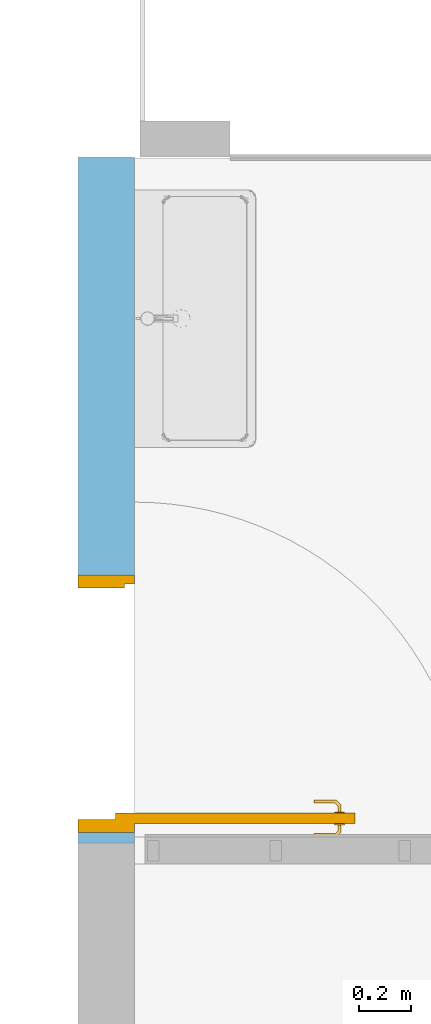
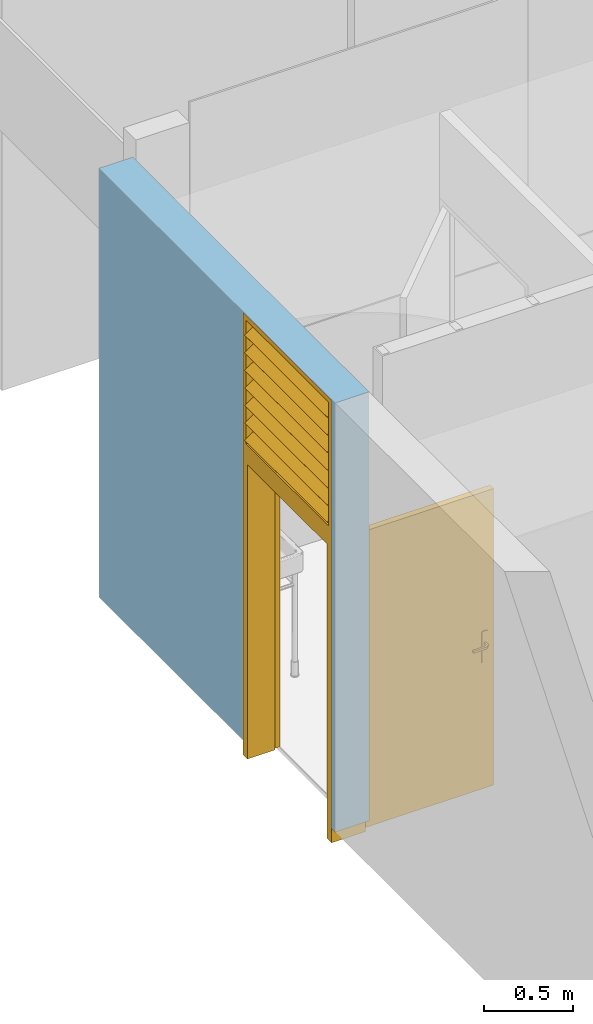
# One storey, part 14 of 20: 1 door, 1 opening, plus 1 element that does not belong to this part.
"""IFC2X3 building model written with IfcOpenShell, lengths in metres."""

from ifc_helpers import new_model, entity, si_unit, converted_unit, derived_unit, direction, frame, frame_2d, origin, place, context, subcontext, project, spatial, rectangle, extrude, faceted_brep, source, transform, mapped, material, material_list, layer, layer_set, layer_usage, type_object, type_shapes, element, fill, save


model = new_model("IFC2X3")

# Units and contexts
model_context = context("Model", 3, precision=1e-05, world=origin(), true_north=direction((6.12303176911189e-17, 1.0)))
body_context = subcontext(model_context, "Body", "Model", "MODEL_VIEW")
ifc_project = project(units=[si_unit("LENGTHUNIT", "METRE"), si_unit("AREAUNIT", "SQUARE_METRE"), si_unit("VOLUMEUNIT", "CUBIC_METRE"), converted_unit("PLANEANGLEUNIT", "DEGREE", entity("IfcRatioMeasure", 0.0174532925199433), si_unit("PLANEANGLEUNIT", "RADIAN"), dimensions=[0, 0, 0, 0, 0, 0, 0]), si_unit("MASSUNIT", "GRAM", prefix="KILO"), derived_unit("MASSDENSITYUNIT", [(si_unit("MASSUNIT", "GRAM", prefix="KILO"), 1), (si_unit("LENGTHUNIT", "METRE"), -3)]), si_unit("TIMEUNIT", "SECOND"), si_unit("FREQUENCYUNIT", "HERTZ"), si_unit("THERMODYNAMICTEMPERATUREUNIT", "DEGREE_CELSIUS"), derived_unit("THERMALTRANSMITTANCEUNIT", [(si_unit("MASSUNIT", "GRAM", prefix="KILO"), 1), (si_unit("THERMODYNAMICTEMPERATUREUNIT", "KELVIN"), -1), (si_unit("TIMEUNIT", "SECOND"), -3)]), derived_unit("VOLUMETRICFLOWRATEUNIT", [(si_unit("LENGTHUNIT", "METRE"), 3), (si_unit("TIMEUNIT", "SECOND"), -1)]), si_unit("ELECTRICCURRENTUNIT", "AMPERE"), si_unit("ELECTRICVOLTAGEUNIT", "VOLT"), si_unit("POWERUNIT", "WATT"), si_unit("FORCEUNIT", "NEWTON", prefix="KILO"), si_unit("ILLUMINANCEUNIT", "LUX"), si_unit("LUMINOUSFLUXUNIT", "LUMEN"), si_unit("LUMINOUSINTENSITYUNIT", "CANDELA"), derived_unit("USERDEFINED", [(si_unit("MASSUNIT", "GRAM", prefix="KILO"), -1), (si_unit("LENGTHUNIT", "METRE"), -2), (si_unit("TIMEUNIT", "SECOND"), 3), (si_unit("LUMINOUSFLUXUNIT", "LUMEN"), 1)]), derived_unit("LINEARVELOCITYUNIT", [(si_unit("LENGTHUNIT", "METRE"), 1), (si_unit("TIMEUNIT", "SECOND"), -1)]), si_unit("PRESSUREUNIT", "PASCAL"), derived_unit("USERDEFINED", [(si_unit("LENGTHUNIT", "METRE"), -2), (si_unit("MASSUNIT", "GRAM", prefix="KILO"), 1), (si_unit("TIMEUNIT", "SECOND"), -2)])], contexts=[model_context])

# Site, building, storey
site_placement = place(None, origin())
site = spatial("IfcSite", under=ifc_project, at=site_placement, Name="Surface", CompositionType="ELEMENT")
building_placement = place(site_placement, origin())
building = spatial("IfcBuilding", under=site, at=building_placement, Name="ExPREF", CompositionType="ELEMENT")
storey_placement = place(building_placement, frame((0.0, 0.0, 4.27)))
storey = spatial("IfcBuildingStorey", under=building, at=storey_placement, Name="R+1", CompositionType="ELEMENT", Elevation=4.27)

# Wall, opening, door
ifc_material_1 = material(Name="AA-BTC")
ifc_layer = layer(ifc_material_1, 0.22)
ifc_layer_set = layer_set([ifc_layer], Name="Mur de base:A-prémur BTC")
ifc_layer_usage = layer_usage(ifc_layer_set, "AXIS2", "NEGATIVE", 0.11)
wall_type = type_object("IfcWallType", Name="Mur de base:A-prémur BTC", PredefinedType="STANDARD", material=ifc_layer_set)
wall_placement = place(storey_placement, frame((45.269743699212, -189.77806962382, 0.0999999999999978), z_axis=(0.0, 0.0, 1.0), x_axis=(0.0, 1.0, 0.0)))
wall = element("IfcWallStandardCase", 1, at=wall_placement, inside=storey, type_object=wall_type, material=ifc_layer_usage, Name="Mur de base:A-prémur BTC", ObjectType="Mur de base:A-prémur BTC", context=body_context, shape_type="SweptSolid", body=[
    extrude(rectangle(XDim=2.66158136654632, YDim=0.220000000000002, at=frame_2d((1.33079068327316, 4.78783679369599e-16), x_axis=(-1.0, 0.0))), origin(), (0.0, 0.0, 1.0), 2.94999999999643),
])
opening_placement = place(wall_placement, frame((1.04000000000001, 0.109999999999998, -0.0999999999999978)))
opening = element("IfcOpeningElement", 2, at=opening_placement, cuts=wall, Name="Porte extérieur + naco R+1:PP (0.93m x 2.04m):1", ObjectType="Opening", context=body_context, shape_type="SweptSolid", body=[
    extrude(rectangle(XDim=3.04571000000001, YDim=0.999999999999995, at=frame_2d((1.52285500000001, 0.499999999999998), x_axis=(1.0, 0.0))), frame((0.0, 0.0, 0.0), z_axis=(0.0, -1.0, 0.0), x_axis=(0.0, 0.0, 1.0)), (0.0, 0.0, 1.0), 0.22),
])
ifc_material_2 = material(Name="AA-Aluminium")
ifc_material_3 = material(Name="AA-vitrage")
ifc_material_4 = material(Name="AA-Blanc satiné")
ifc_material_5 = material(Name="AA-bois menuiseries")
ifc_material_list_1 = material_list([ifc_material_2, ifc_material_3, ifc_material_4, ifc_material_5])
ifc_material_list_2 = material_list([ifc_material_2, ifc_material_3, ifc_material_4, ifc_material_5])
door_style = type_object("IfcDoorStyle", Name="PP (0.93m x 2.04m)", ConstructionType="NOTDEFINED", OperationType="SINGLE_SWING_RIGHT", ParameterTakesPrecedence=False, Sizeable=False, material=ifc_material_list_2)
shared_shape = source(origin(), body_context, "Body", "Brep", [
    faceted_brep([(0.105000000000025, 0.118950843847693, 2.97916600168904), (0.105000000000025, 0.102098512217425, 2.99096613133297), (0.105000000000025, 0.106516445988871, 2.99727559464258), (0.105000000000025, 0.123368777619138, 2.98547546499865), (1.03500000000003, 0.118950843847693, 2.97916600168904), (1.03500000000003, 0.123368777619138, 2.98547546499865), (1.03500000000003, 0.106516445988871, 2.99727559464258), (1.03500000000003, 0.102098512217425, 2.99096613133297)], [[[0, 1, 2, 3]], [[4, 5, 6, 7]], [[1, 0, 4, 7]], [[2, 1, 7, 6]], [[3, 2, 6, 5]], [[0, 3, 5, 4]]]),
    faceted_brep([(0.105000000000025, 0.119753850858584, 2.98031281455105), (0.105000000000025, 0.122621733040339, 2.98440857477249), (0.105000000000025, 0.228642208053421, 2.91017223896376), (0.105000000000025, 0.225774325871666, 2.90607647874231), (1.03500000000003, 0.119753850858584, 2.98031281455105), (1.03500000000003, 0.225774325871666, 2.90607647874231), (1.03500000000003, 0.228642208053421, 2.91017223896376), (1.03500000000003, 0.122621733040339, 2.98440857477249)], [[[0, 1, 2, 3]], [[4, 5, 6, 7]], [[1, 0, 4, 7]], [[2, 1, 7, 6]], [[3, 2, 6, 5]], [[0, 3, 5, 4]]]),
    faceted_brep([(0.105000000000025, 0.118950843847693, 2.85816600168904), (0.105000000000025, 0.102098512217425, 2.86996613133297), (0.105000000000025, 0.106516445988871, 2.87627559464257), (0.105000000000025, 0.123368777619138, 2.86447546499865), (1.03500000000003, 0.118950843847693, 2.85816600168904), (1.03500000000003, 0.123368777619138, 2.86447546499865), (1.03500000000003, 0.106516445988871, 2.87627559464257), (1.03500000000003, 0.102098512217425, 2.86996613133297)], [[[0, 1, 2, 3]], [[4, 5, 6, 7]], [[1, 0, 4, 7]], [[2, 1, 7, 6]], [[3, 2, 6, 5]], [[0, 3, 5, 4]]]),
    faceted_brep([(0.105000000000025, 0.119753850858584, 2.85931281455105), (0.105000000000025, 0.122621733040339, 2.86340857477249), (0.105000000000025, 0.228642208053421, 2.78917223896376), (0.105000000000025, 0.225774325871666, 2.78507647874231), (1.03500000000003, 0.119753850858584, 2.85931281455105), (1.03500000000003, 0.225774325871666, 2.78507647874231), (1.03500000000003, 0.228642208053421, 2.78917223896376), (1.03500000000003, 0.122621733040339, 2.86340857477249)], [[[0, 1, 2, 3]], [[4, 5, 6, 7]], [[1, 0, 4, 7]], [[2, 1, 7, 6]], [[3, 2, 6, 5]], [[0, 3, 5, 4]]]),
    faceted_brep([(0.105000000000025, 0.118950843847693, 2.25571998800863), (0.105000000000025, 0.102098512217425, 2.26752011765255), (0.105000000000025, 0.106516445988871, 2.27382958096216), (0.105000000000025, 0.123368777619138, 2.26202945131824), (1.03500000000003, 0.118950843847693, 2.25571998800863), (1.03500000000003, 0.123368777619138, 2.26202945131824), (1.03500000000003, 0.106516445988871, 2.27382958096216), (1.03500000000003, 0.102098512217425, 2.26752011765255)], [[[0, 1, 2, 3]], [[4, 5, 6, 7]], [[1, 0, 4, 7]], [[2, 1, 7, 6]], [[3, 2, 6, 5]], [[0, 3, 5, 4]]]),
    faceted_brep([(0.105000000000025, 0.119753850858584, 2.25686680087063), (0.105000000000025, 0.122621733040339, 2.26096256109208), (0.105000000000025, 0.228642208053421, 2.18672622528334), (0.105000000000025, 0.225774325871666, 2.1826304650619), (1.03500000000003, 0.119753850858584, 2.25686680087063), (1.03500000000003, 0.225774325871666, 2.1826304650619), (1.03500000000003, 0.228642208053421, 2.18672622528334), (1.03500000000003, 0.122621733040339, 2.26096256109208)], [[[0, 1, 2, 3]], [[4, 5, 6, 7]], [[1, 0, 4, 7]], [[2, 1, 7, 6]], [[3, 2, 6, 5]], [[0, 3, 5, 4]]]),
    faceted_brep([(0.105000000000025, 0.118950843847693, 2.37416600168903), (0.105000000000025, 0.102098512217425, 2.38596613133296), (0.105000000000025, 0.106516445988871, 2.39227559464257), (0.105000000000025, 0.123368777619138, 2.38047546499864), (1.03500000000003, 0.118950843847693, 2.37416600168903), (1.03500000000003, 0.123368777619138, 2.38047546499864), (1.03500000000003, 0.106516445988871, 2.39227559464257), (1.03500000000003, 0.102098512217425, 2.38596613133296)], [[[0, 1, 2, 3]], [[4, 5, 6, 7]], [[1, 0, 4, 7]], [[2, 1, 7, 6]], [[3, 2, 6, 5]], [[0, 3, 5, 4]]]),
    faceted_brep([(0.105000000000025, 0.119753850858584, 2.37531281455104), (0.105000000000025, 0.122621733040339, 2.37940857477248), (0.105000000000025, 0.228642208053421, 2.30517223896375), (0.105000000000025, 0.225774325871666, 2.3010764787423), (1.03500000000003, 0.119753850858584, 2.37531281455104), (1.03500000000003, 0.225774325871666, 2.3010764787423), (1.03500000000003, 0.228642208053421, 2.30517223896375), (1.03500000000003, 0.122621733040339, 2.37940857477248)], [[[0, 1, 2, 3]], [[4, 5, 6, 7]], [[1, 0, 4, 7]], [[2, 1, 7, 6]], [[3, 2, 6, 5]], [[0, 3, 5, 4]]]),
    faceted_brep([(0.105000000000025, 0.118950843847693, 2.49516600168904), (0.105000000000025, 0.102098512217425, 2.50696613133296), (0.105000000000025, 0.106516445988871, 2.51327559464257), (0.105000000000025, 0.123368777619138, 2.50147546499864), (1.03500000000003, 0.118950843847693, 2.49516600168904), (1.03500000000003, 0.123368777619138, 2.50147546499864), (1.03500000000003, 0.106516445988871, 2.51327559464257), (1.03500000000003, 0.102098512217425, 2.50696613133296)], [[[0, 1, 2, 3]], [[4, 5, 6, 7]], [[1, 0, 4, 7]], [[2, 1, 7, 6]], [[3, 2, 6, 5]], [[0, 3, 5, 4]]]),
    faceted_brep([(0.105000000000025, 0.119753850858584, 2.49631281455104), (0.105000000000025, 0.122621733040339, 2.50040857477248), (0.105000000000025, 0.228642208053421, 2.42617223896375), (0.105000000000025, 0.225774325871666, 2.42207647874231), (1.03500000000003, 0.119753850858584, 2.49631281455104), (1.03500000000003, 0.225774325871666, 2.42207647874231), (1.03500000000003, 0.228642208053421, 2.42617223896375), (1.03500000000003, 0.122621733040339, 2.50040857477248)], [[[0, 1, 2, 3]], [[4, 5, 6, 7]], [[1, 0, 4, 7]], [[2, 1, 7, 6]], [[3, 2, 6, 5]], [[0, 3, 5, 4]]]),
    faceted_brep([(0.105000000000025, 0.118950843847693, 2.73716600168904), (0.105000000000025, 0.102098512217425, 2.74896613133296), (0.105000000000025, 0.106516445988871, 2.75527559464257), (0.105000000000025, 0.123368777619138, 2.74347546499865), (1.03500000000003, 0.118950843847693, 2.73716600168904), (1.03500000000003, 0.123368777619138, 2.74347546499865), (1.03500000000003, 0.106516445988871, 2.75527559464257), (1.03500000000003, 0.102098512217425, 2.74896613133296)], [[[0, 1, 2, 3]], [[4, 5, 6, 7]], [[1, 0, 4, 7]], [[2, 1, 7, 6]], [[3, 2, 6, 5]], [[0, 3, 5, 4]]]),
    faceted_brep([(0.105000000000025, 0.119753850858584, 2.73831281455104), (0.105000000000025, 0.122621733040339, 2.74240857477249), (0.105000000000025, 0.228642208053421, 2.66817223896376), (0.105000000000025, 0.225774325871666, 2.66407647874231), (1.03500000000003, 0.119753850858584, 2.73831281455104), (1.03500000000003, 0.225774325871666, 2.66407647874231), (1.03500000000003, 0.228642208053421, 2.66817223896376), (1.03500000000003, 0.122621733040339, 2.74240857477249)], [[[0, 1, 2, 3]], [[4, 5, 6, 7]], [[1, 0, 4, 7]], [[2, 1, 7, 6]], [[3, 2, 6, 5]], [[0, 3, 5, 4]]]),
    faceted_brep([(0.105000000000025, 0.118950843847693, 2.61616600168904), (0.105000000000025, 0.102098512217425, 2.62796613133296), (0.105000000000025, 0.106516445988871, 2.63427559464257), (0.105000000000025, 0.123368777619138, 2.62247546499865), (1.03500000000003, 0.118950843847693, 2.61616600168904), (1.03500000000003, 0.123368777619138, 2.62247546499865), (1.03500000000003, 0.106516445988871, 2.63427559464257), (1.03500000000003, 0.102098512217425, 2.62796613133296)], [[[0, 1, 2, 3]], [[4, 5, 6, 7]], [[1, 0, 4, 7]], [[2, 1, 7, 6]], [[3, 2, 6, 5]], [[0, 3, 5, 4]]]),
    faceted_brep([(0.105000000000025, 0.119753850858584, 2.61731281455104), (0.105000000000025, 0.122621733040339, 2.62140857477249), (0.105000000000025, 0.228642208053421, 2.54717223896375), (0.105000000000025, 0.225774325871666, 2.54307647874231), (1.03500000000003, 0.119753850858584, 2.61731281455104), (1.03500000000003, 0.225774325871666, 2.54307647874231), (1.03500000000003, 0.228642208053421, 2.54717223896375), (1.03500000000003, 0.122621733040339, 2.62140857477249)], [[[0, 1, 2, 3]], [[4, 5, 6, 7]], [[1, 0, 4, 7]], [[2, 1, 7, 6]], [[3, 2, 6, 5]], [[0, 3, 5, 4]]]),
    faceted_brep([(0.172485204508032, -0.788999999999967, 1.007), (0.172485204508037, -0.788999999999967, 0.993000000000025), (0.150000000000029, -0.788999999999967, 0.993000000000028), (0.150000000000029, -0.788999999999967, 1.007), (0.17745576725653, -0.801000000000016, 1.007), (0.150000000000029, -0.801000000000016, 1.007), (0.150000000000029, -0.801000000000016, 0.992999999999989), (0.17745576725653, -0.801000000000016, 0.992999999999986), (0.195970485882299, -0.782485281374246, 0.992999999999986), (0.195970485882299, -0.782485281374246, 1.007), (0.18794518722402, -0.694954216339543, 1.00778044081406), (0.191995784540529, -0.694954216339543, 1.00778044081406), (0.195970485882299, -0.694954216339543, 1.007), (0.195970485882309, -0.694954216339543, 0.992999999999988), (0.191995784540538, -0.694954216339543, 0.99221955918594), (0.187945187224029, -0.694954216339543, 0.992219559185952), (0.18397048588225, -0.694954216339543, 0.993000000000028), (0.183970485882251, -0.694954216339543, 1.007), (0.18397048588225, -0.777514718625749, 0.993000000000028), (0.18397048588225, -0.777514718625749, 1.007), (0.183970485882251, -0.736234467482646, 1.007), (0.183970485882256, -0.736234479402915, 0.993000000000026), (0.189970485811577, -0.737057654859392, 0.992121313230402), (0.195970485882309, -0.742554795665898, 0.992999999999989), (0.191995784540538, -0.780838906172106, 0.99221955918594), (0.187945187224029, -0.779161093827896, 0.992219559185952), (0.150000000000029, -0.792974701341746, 0.992219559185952), (0.150000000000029, -0.797025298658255, 0.99221955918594), (0.150000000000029, -0.797025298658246, 1.00778044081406), (0.150000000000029, -0.792974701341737, 1.00778044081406), (0.174131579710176, -0.792974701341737, 1.00778044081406), (0.175809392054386, -0.797025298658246, 1.00778044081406), (0.191995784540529, -0.780838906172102, 1.00778044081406), (0.187945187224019, -0.779161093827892, 1.00778044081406), (0.17580939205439, -0.797025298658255, 0.99221955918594), (0.174131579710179, -0.792974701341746, 0.992219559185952), (0.189970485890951, -0.737057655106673, 1.0078786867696), (0.195970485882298, -0.742554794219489, 1.007)], [[[0, 1, 2, 3]], [[4, 5, 6, 7]], [[8, 9, 4, 7]], [[10, 11, 12, 13, 14, 15, 16, 17]], [[18, 19, 20, 17, 16, 21]], [[22, 14, 23]], [[23, 14, 13]], [[23, 8, 24]], [[25, 21, 22]], [[21, 25, 18]], [[16, 15, 21]], [[22, 15, 14]], [[22, 21, 15]], [[22, 23, 24]], [[25, 22, 24]], [[26, 27, 6, 5, 28, 29, 3, 2]], [[29, 30, 0, 3]], [[29, 28, 31, 32, 33, 30]], [[5, 4, 31, 28]], [[6, 27, 34, 7]], [[27, 26, 35, 25, 24, 34]], [[26, 2, 1, 35]], [[19, 18, 1, 0]], [[0, 30, 33, 19]], [[4, 9, 32, 31]], [[7, 34, 24, 8]], [[35, 1, 18, 25]], [[36, 10, 20]], [[11, 36, 37]], [[33, 20, 19]], [[10, 17, 20]], [[11, 37, 12]], [[37, 32, 9]], [[36, 32, 37]], [[36, 33, 32]], [[36, 20, 33]], [[10, 36, 11]], [[9, 8, 23, 13, 12, 37]]]),
    faceted_brep([(0.100000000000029, -0.792974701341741, 1.00778044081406), (0.100000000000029, -0.79702529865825, 1.00778044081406), (0.100000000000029, -0.80100000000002, 1.00699999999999), (0.100000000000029, -0.801000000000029, 0.992999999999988), (0.100000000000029, -0.797025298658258, 0.99221955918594), (0.100000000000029, -0.792974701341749, 0.992219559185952), (0.100000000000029, -0.78899999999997, 0.993000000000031), (0.100000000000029, -0.788999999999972, 1.007), (0.0659718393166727, -0.777652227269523, 0.993000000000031), (0.0659718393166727, -0.777652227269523, 1.00699999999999), (0.0773196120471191, -0.78899999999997, 1.00699999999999), (0.0773196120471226, -0.788999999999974, 0.993000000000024), (0.0539718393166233, -0.78262279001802, 1.00699999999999), (0.0539718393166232, -0.78262279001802, 0.992999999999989), (0.0723490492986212, -0.801000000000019, 0.992999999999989), (0.0723490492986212, -0.801000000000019, 1.007), (0.065971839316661, -0.736316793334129, 0.993000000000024), (0.0659718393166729, -0.694981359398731, 0.993000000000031), (0.0659718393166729, -0.694981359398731, 1.00699999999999), (0.0659718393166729, -0.736316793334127, 1.007), (0.0739954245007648, -0.79702529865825, 1.00778044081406), (0.0756732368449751, -0.792974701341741, 1.00778044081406), (0.0619971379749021, -0.779298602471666, 1.00778044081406), (0.0579465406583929, -0.780976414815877, 1.00778044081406), (0.0756732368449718, -0.792974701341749, 0.992219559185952), (0.0739954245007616, -0.797025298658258, 0.99221955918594), (0.057946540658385, -0.78097641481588, 0.99221955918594), (0.0619971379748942, -0.77929860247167, 0.992219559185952), (0.0539718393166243, -0.694981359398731, 1.007), (0.0579465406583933, -0.694981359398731, 1.00778044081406), (0.0619971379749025, -0.694981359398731, 1.00778044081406), (0.0619971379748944, -0.694981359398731, 0.992219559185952), (0.0579465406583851, -0.694981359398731, 0.99221955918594), (0.0539718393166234, -0.694981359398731, 0.992999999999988), (0.0599718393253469, -0.737139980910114, 1.0078786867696), (0.0539718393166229, -0.74269230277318, 1.007), (0.0599718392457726, -0.737139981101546, 0.992121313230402), (0.0539718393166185, -0.74269231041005, 0.992999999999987)], [[[0, 1, 2, 3, 4, 5, 6, 7]], [[8, 9, 10, 11]], [[12, 13, 14, 15]], [[9, 8, 16, 17, 18, 19]], [[2, 1, 20, 15]], [[1, 0, 21, 22, 23, 20]], [[0, 7, 10, 21]], [[11, 10, 7, 6]], [[5, 24, 11, 6]], [[5, 4, 25, 26, 27, 24]], [[3, 14, 25, 4]], [[15, 14, 3, 2]], [[15, 20, 23, 12]], [[21, 10, 9, 22]], [[11, 24, 27, 8]], [[25, 14, 13, 26]], [[28, 29, 30, 18, 17, 31, 32, 33]], [[34, 29, 35]], [[35, 29, 28]], [[35, 12, 23]], [[22, 19, 34]], [[19, 22, 9]], [[18, 30, 19]], [[34, 30, 29]], [[34, 19, 30]], [[34, 35, 23]], [[22, 34, 23]], [[36, 31, 16]], [[32, 36, 37]], [[27, 16, 8]], [[31, 17, 16]], [[32, 37, 33]], [[37, 26, 13]], [[36, 26, 37]], [[36, 27, 26]], [[36, 16, 27]], [[31, 36, 32]], [[13, 12, 35, 28, 33, 37]]]),
    faceted_brep([(0.150000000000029, -0.794999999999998, 1.08535898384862), (0.150000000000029, -0.805352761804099, 1.08399601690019), (0.150000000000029, -0.814999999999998, 1.08), (0.150000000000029, -0.814999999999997, 0.870000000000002), (0.150000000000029, -0.805352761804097, 0.866003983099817), (0.150000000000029, -0.794999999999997, 0.86464101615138), (0.150000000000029, -0.784647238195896, 0.866003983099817), (0.150000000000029, -0.774999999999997, 0.870000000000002), (0.150000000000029, -0.774999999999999, 1.08), (0.150000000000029, -0.784647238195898, 1.08399601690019), (0.145000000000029, -0.805352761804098, 0.866003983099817), (0.145000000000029, -0.814999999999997, 0.870000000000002), (0.145000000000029, -0.794999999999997, 0.86464101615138), (0.145000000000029, -0.784647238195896, 0.866003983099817), (0.145000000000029, -0.774999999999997, 0.870000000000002), (0.145000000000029, -0.814999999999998, 1.08), (0.145000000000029, -0.805352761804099, 1.08399601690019), (0.145000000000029, -0.794999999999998, 1.08535898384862), (0.145000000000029, -0.784647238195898, 1.08399601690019), (0.145000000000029, -0.774999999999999, 1.08)], [[[0, 1, 2, 3, 4, 5, 6, 7, 8, 9]], [[10, 4, 3, 11]], [[12, 5, 4, 10]], [[13, 6, 5, 12]], [[13, 14, 7, 6]], [[11, 15, 16, 17, 18, 19, 14, 13, 12, 10]], [[18, 9, 8, 19]], [[17, 0, 9, 18]], [[16, 1, 0, 17]], [[16, 15, 2, 1]], [[3, 2, 15, 11]], [[7, 14, 19, 8]]]),
    faceted_brep([(0.100000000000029, -0.814999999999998, 0.870000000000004), (0.100000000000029, -0.814999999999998, 1.08), (0.100000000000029, -0.805352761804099, 1.08399601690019), (0.100000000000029, -0.794999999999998, 1.08535898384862), (0.100000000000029, -0.784647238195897, 1.08399601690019), (0.100000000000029, -0.774999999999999, 1.08), (0.100000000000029, -0.774999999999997, 0.870000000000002), (0.100000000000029, -0.784647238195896, 0.866003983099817), (0.100000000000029, -0.794999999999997, 0.86464101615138), (0.100000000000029, -0.805352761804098, 0.866003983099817), (0.105000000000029, -0.805352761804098, 0.866003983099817), (0.105000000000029, -0.814999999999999, 0.870000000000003), (0.105000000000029, -0.794999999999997, 0.86464101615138), (0.105000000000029, -0.784647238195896, 0.866003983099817), (0.105000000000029, -0.774999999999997, 0.870000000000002), (0.105000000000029, -0.774999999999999, 1.08), (0.105000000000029, -0.814999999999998, 1.08), (0.105000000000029, -0.784647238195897, 1.08399601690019), (0.105000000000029, -0.794999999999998, 1.08535898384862), (0.105000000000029, -0.805352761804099, 1.08399601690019)], [[[0, 1, 2, 3, 4, 5, 6, 7, 8, 9]], [[9, 10, 11, 0]], [[8, 12, 10, 9]], [[7, 13, 12, 8]], [[7, 6, 14, 13]], [[14, 6, 5, 15]], [[16, 11, 10, 12, 13, 14, 15, 17, 18, 19]], [[4, 17, 15, 5]], [[3, 18, 17, 4]], [[2, 19, 18, 3]], [[2, 1, 16, 19]], [[11, 16, 1, 0]]]),
    faceted_brep([(0.14500000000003, -0.854999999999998, 2.04), (0.14500000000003, -0.854999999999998, 0.0), (0.145000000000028, 0.0750000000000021, 0.0), (0.145000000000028, 0.0750000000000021, 2.04), (0.10500000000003, -0.854999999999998, 2.04), (0.105000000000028, 0.075000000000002, 2.04), (0.105000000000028, 0.0750000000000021, 0.0), (0.10500000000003, -0.854999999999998, 0.0)], [[[0, 1, 2, 3]], [[4, 5, 6, 7]], [[3, 5, 4, 0]], [[2, 6, 5, 3]], [[1, 7, 6, 2]], [[0, 4, 7, 1]]]),
    faceted_brep([(1.07000000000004, 0.0, 0.0), (1.03500000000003, 0.0, 0.0), (1.03500000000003, 0.0400000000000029, 0.0), (1.02000000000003, 0.0400000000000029, 0.0), (1.02000000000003, 0.220000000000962, 0.0), (1.07000000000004, 0.220000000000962, 0.0), (1.07000000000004, 0.220000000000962, 2.07500000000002), (1.07000000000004, 0.0, 2.07500000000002), (1.02000000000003, 0.220000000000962, 2.025), (0.120000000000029, 0.220000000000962, 2.025), (0.120000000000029, 0.220000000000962, 0.0), (0.0700000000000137, 0.220000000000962, 0.0), (0.0700000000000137, 0.220000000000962, 2.07500000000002), (1.02000000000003, 0.0400000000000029, 2.025), (1.03500000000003, 0.0400000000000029, 2.04), (0.105000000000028, 0.0400000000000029, 2.04), (0.105000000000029, 0.0400000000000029, 0.0), (0.120000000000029, 0.0400000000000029, 0.0), (0.120000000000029, 0.0400000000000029, 2.025), (1.03500000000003, 0.0, 2.04), (0.0700000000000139, 0.0, 2.07500000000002), (0.0700000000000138, 0.0, 0.0), (0.105000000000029, 0.0, 0.0), (0.105000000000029, 0.0, 2.04)], [[[0, 1, 2, 3, 4, 5]], [[5, 6, 7, 0]], [[4, 8, 9, 10, 11, 12, 6, 5]], [[3, 13, 8, 4]], [[2, 14, 15, 16, 17, 18, 13, 3]], [[1, 19, 14, 2]], [[0, 7, 20, 21, 22, 23, 19, 1]], [[12, 11, 21, 20]], [[21, 11, 10, 17, 16, 22]], [[18, 17, 10, 9]], [[23, 22, 16, 15]], [[6, 12, 20, 7]], [[13, 18, 9, 8]], [[19, 23, 15, 14]]]),
    faceted_brep([(1.07000000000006, 0.22, 2.07500000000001), (0.0700000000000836, 0.22, 2.07500000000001), (0.0700000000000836, 0.22, 2.12500000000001), (1.07000000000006, 0.22, 2.12500000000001), (1.07000000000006, 0.0, 2.07500000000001), (1.07000000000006, 0.0, 2.12500000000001), (0.0700000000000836, 0.0, 2.12500000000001), (0.0700000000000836, 0.0, 2.07500000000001)], [[[0, 1, 2, 3]], [[4, 5, 6, 7]], [[3, 5, 4, 0]], [[2, 6, 5, 3]], [[1, 7, 6, 2]], [[0, 4, 7, 1]]]),
    faceted_brep([(0.105000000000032, 0.0, 3.01071000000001), (1.03500000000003, 0.0, 3.01071000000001), (1.03500000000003, 0.0, 2.16000000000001), (0.105000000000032, 0.0, 2.16000000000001), (1.07000000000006, 0.0, 3.04571000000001), (0.0700000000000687, 0.0, 3.04571000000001), (0.0700000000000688, 0.0, 2.12500000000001), (1.07000000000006, 0.0, 2.12500000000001), (1.07000000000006, 0.22, 3.04571000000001), (1.07000000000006, 0.22, 2.12500000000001), (0.0700000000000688, 0.22, 2.12500000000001), (0.0700000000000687, 0.22, 3.04571000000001), (0.105000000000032, 0.22, 3.01071000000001), (0.105000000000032, 0.22, 2.16000000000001), (1.03500000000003, 0.22, 2.16000000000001), (1.03500000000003, 0.22, 3.01071000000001)], [[[0, 1, 2, 3], [4, 5, 6, 7]], [[8, 4, 7, 9]], [[10, 6, 5, 11]], [[11, 5, 4, 8]], [[12, 0, 3, 13]], [[14, 2, 1, 15]], [[15, 1, 0, 12]], [[8, 9, 10, 11], [12, 13, 14, 15]], [[9, 7, 6, 10]], [[13, 3, 2, 14]]], outer=[[False, True], [True], [True], [True], [True], [True], [True], [True, False], [True], [True]]),
])
type_shapes(door_style, [shared_shape])
door_placement = place(opening_placement, frame((-1.07000000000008, -0.219999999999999, 0.0)))
door = element("IfcDoor", 3, at=door_placement, inside=storey, type_object=door_style, material=ifc_material_list_1, Name="Porte extérieur + naco R+1:PP (0.93m x 2.04m)", ObjectType="PP (0.93m x 2.04m)", OverallHeight=3.04571000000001, OverallWidth=1.00000000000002, context=body_context, shape_type="MappedRepresentation", body=[
    mapped(shared_shape, transform((0.0, 0.0, 0.0), scale=1.0)),
])
fill(opening, door)

save(model, "model.ifc")
